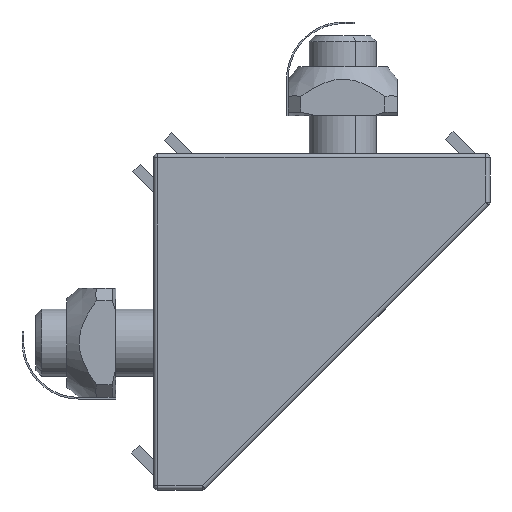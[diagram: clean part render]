
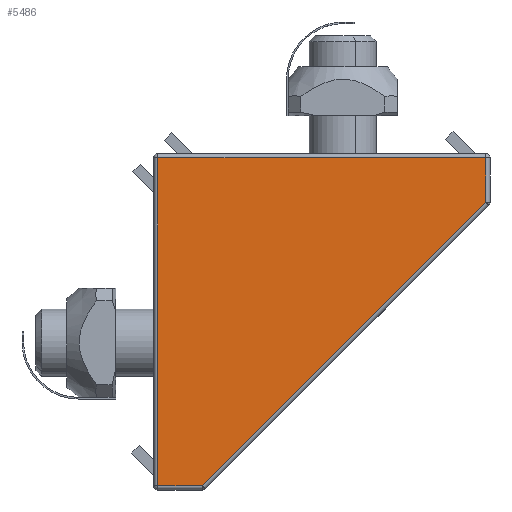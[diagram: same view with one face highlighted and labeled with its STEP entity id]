
A CAD part, left-side view. The second image highlights one B-rep face of the part: STEP entity #5486.
In plain terms, the highlighted planar face has unit normal (-1, 0, 0).
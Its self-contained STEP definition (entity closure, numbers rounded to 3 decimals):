
#608 = DIRECTION ( 'NONE',  ( 0., 0., -1. ) ) ;
#772 = DIRECTION ( 'NONE',  ( 0., -1., 0. ) ) ;
#774 = CARTESIAN_POINT ( 'NONE',  ( -9.051, -0.018, -4.004 ) ) ;
#991 = AXIS2_PLACEMENT_3D ( 'NONE', #774, #2994, #608 ) ;
#1454 = DIRECTION ( 'NONE',  ( 0., 1., 0. ) ) ;
#1533 = ORIENTED_EDGE ( 'NONE', *, *, #5975, .T. ) ;
#1686 = LINE ( 'NONE', #2490, #8982 ) ;
#1924 = VERTEX_POINT ( 'NONE', #3191 ) ;
#2490 = CARTESIAN_POINT ( 'NONE',  ( -9.051, -0.018, -23.504 ) ) ;
#2754 = CARTESIAN_POINT ( 'NONE',  ( -9.051, 19.482, -4.004 ) ) ;
#2763 = LINE ( 'NONE', #4413, #4963 ) ;
#2994 = DIRECTION ( 'NONE',  ( 1., 0., 0. ) ) ;
#3024 = EDGE_CURVE ( 'NONE', #7003, #1924, #2763, .T. ) ;
#3154 = VECTOR ( 'NONE', #4697, 1000. ) ;
#3191 = CARTESIAN_POINT ( 'NONE',  ( -9.051, -19.518, 15.496 ) ) ;
#3215 = ORIENTED_EDGE ( 'NONE', *, *, #5691, .T. ) ;
#3775 = LINE ( 'NONE', #9690, #10420 ) ;
#3873 = LINE ( 'NONE', #8871, #3154 ) ;
#4043 = ORIENTED_EDGE ( 'NONE', *, *, #10575, .T. ) ;
#4251 = ORIENTED_EDGE ( 'NONE', *, *, #4781, .T. ) ;
#4348 = LINE ( 'NONE', #2754, #8329 ) ;
#4413 = CARTESIAN_POINT ( 'NONE',  ( -9.051, -19.518, -4.004 ) ) ;
#4697 = DIRECTION ( 'NONE',  ( 0., -0.707, 0.707 ) ) ;
#4709 = VERTEX_POINT ( 'NONE', #9818 ) ;
#4781 = EDGE_CURVE ( 'NONE', #10140, #5069, #1686, .T. ) ;
#4963 = VECTOR ( 'NONE', #9446, 1000. ) ;
#5069 = VERTEX_POINT ( 'NONE', #9301 ) ;
#5307 = DIRECTION ( 'NONE',  ( 0., 0., -1. ) ) ;
#5327 = EDGE_LOOP ( 'NONE', ( #4043, #8978, #1533, #3215, #4251 ) ) ;
#5486 = ADVANCED_FACE ( 'NONE', ( #5593 ), #8082, .F. ) ;
#5593 = FACE_OUTER_BOUND ( 'NONE', #5327, .T. ) ;
#5691 = EDGE_CURVE ( 'NONE', #4709, #10140, #4348, .T. ) ;
#5975 = EDGE_CURVE ( 'NONE', #1924, #4709, #3775, .T. ) ;
#6014 = CARTESIAN_POINT ( 'NONE',  ( -9.051, -19.518, 10.203 ) ) ;
#7003 = VERTEX_POINT ( 'NONE', #6014 ) ;
#7244 = CARTESIAN_POINT ( 'NONE',  ( -9.051, 19.482, -23.504 ) ) ;
#8082 = PLANE ( 'NONE',  #991 ) ;
#8329 = VECTOR ( 'NONE', #5307, 1000. ) ;
#8871 = CARTESIAN_POINT ( 'NONE',  ( -9.051, -2.665, -6.651 ) ) ;
#8978 = ORIENTED_EDGE ( 'NONE', *, *, #3024, .T. ) ;
#8982 = VECTOR ( 'NONE', #772, 1000. ) ;
#9301 = CARTESIAN_POINT ( 'NONE',  ( -9.051, 14.189, -23.504 ) ) ;
#9446 = DIRECTION ( 'NONE',  ( 0., 0., 1. ) ) ;
#9690 = CARTESIAN_POINT ( 'NONE',  ( -9.051, -0.018, 15.496 ) ) ;
#9818 = CARTESIAN_POINT ( 'NONE',  ( -9.051, 19.482, 15.496 ) ) ;
#10140 = VERTEX_POINT ( 'NONE', #7244 ) ;
#10420 = VECTOR ( 'NONE', #1454, 1000. ) ;
#10575 = EDGE_CURVE ( 'NONE', #5069, #7003, #3873, .T. ) ;
